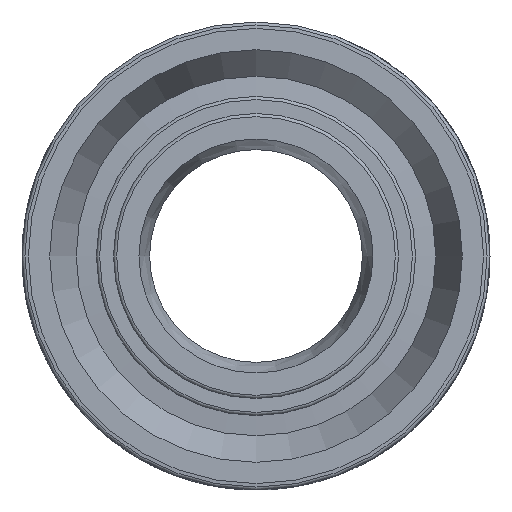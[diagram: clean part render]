
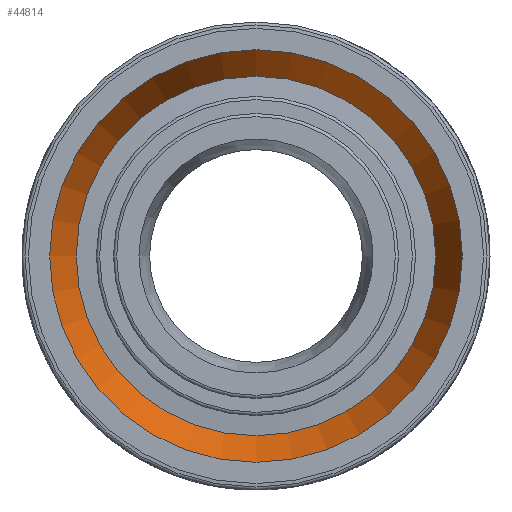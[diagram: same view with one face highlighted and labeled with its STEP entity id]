
A CAD part, left-side view. The second image highlights one B-rep face of the part: STEP entity #44814.
In plain terms, the highlighted conical face has half-angle 25 degrees and reference radius 9.075 mm.
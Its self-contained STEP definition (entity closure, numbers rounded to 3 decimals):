
#63=CONICAL_SURFACE('',#46754,9.075,0.436);
#4810=FACE_OUTER_BOUND('',#7486,.T.);
#7486=EDGE_LOOP('',(#41528,#41529,#41530,#41531,#41532,#41533));
#13238=LINE('',#102409,#16164);
#16164=VECTOR('',#53660,9.075);
#17029=CIRCLE('',#46752,8.45);
#17030=CIRCLE('',#46753,8.45);
#17031=CIRCLE('',#46755,9.7);
#17032=CIRCLE('',#46756,9.7);
#21621=VERTEX_POINT('',#102402);
#21622=VERTEX_POINT('',#102404);
#21623=VERTEX_POINT('',#102408);
#21624=VERTEX_POINT('',#102410);
#28318=EDGE_CURVE('',#21622,#21621,#17029,.T.);
#28319=EDGE_CURVE('',#21621,#21622,#17030,.T.);
#28320=EDGE_CURVE('',#21621,#21623,#13238,.T.);
#28321=EDGE_CURVE('',#21624,#21623,#17031,.T.);
#28322=EDGE_CURVE('',#21623,#21624,#17032,.T.);
#41528=ORIENTED_EDGE('',*,*,#28318,.T.);
#41529=ORIENTED_EDGE('',*,*,#28320,.T.);
#41530=ORIENTED_EDGE('',*,*,#28321,.F.);
#41531=ORIENTED_EDGE('',*,*,#28322,.F.);
#41532=ORIENTED_EDGE('',*,*,#28320,.F.);
#41533=ORIENTED_EDGE('',*,*,#28319,.T.);
#44814=ADVANCED_FACE('',(#4810),#63,.F.);
#46752=AXIS2_PLACEMENT_3D('',#102405,#53654,#53655);
#46753=AXIS2_PLACEMENT_3D('',#102406,#53656,#53657);
#46754=AXIS2_PLACEMENT_3D('',#102407,#53658,#53659);
#46755=AXIS2_PLACEMENT_3D('',#102411,#53661,#53662);
#46756=AXIS2_PLACEMENT_3D('',#102412,#53663,#53664);
#53654=DIRECTION('center_axis',(1.,0.,0.));
#53655=DIRECTION('ref_axis',(0.,0.,-1.));
#53656=DIRECTION('center_axis',(1.,0.,0.));
#53657=DIRECTION('ref_axis',(0.,0.,-1.));
#53658=DIRECTION('center_axis',(-1.,0.,0.));
#53659=DIRECTION('ref_axis',(0.,1.,0.));
#53660=DIRECTION('',(-0.906,-0.423,0.));
#53661=DIRECTION('center_axis',(1.,0.,0.));
#53662=DIRECTION('ref_axis',(0.,0.,-1.));
#53663=DIRECTION('center_axis',(1.,0.,0.));
#53664=DIRECTION('ref_axis',(0.,0.,-1.));
#102402=CARTESIAN_POINT('',(-27.332,-8.45,0.));
#102404=CARTESIAN_POINT('',(-27.332,8.45,0.));
#102405=CARTESIAN_POINT('Origin',(-27.332,0.,0.));
#102406=CARTESIAN_POINT('Origin',(-27.332,0.,0.));
#102407=CARTESIAN_POINT('Origin',(-28.672,0.,0.));
#102408=CARTESIAN_POINT('',(-30.012,-9.7,0.));
#102409=CARTESIAN_POINT('',(-28.672,-9.075,0.));
#102410=CARTESIAN_POINT('',(-30.012,9.7,0.));
#102411=CARTESIAN_POINT('Origin',(-30.012,0.,0.));
#102412=CARTESIAN_POINT('Origin',(-30.012,0.,0.));
